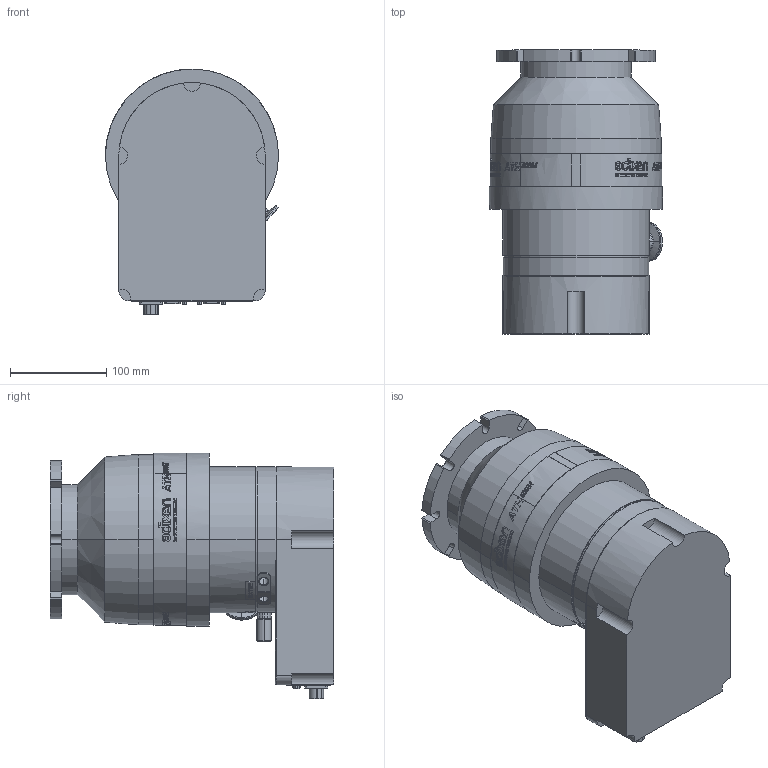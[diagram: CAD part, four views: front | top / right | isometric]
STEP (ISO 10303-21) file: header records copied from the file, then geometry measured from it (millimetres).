
FILE_DESCRIPTION((''),'2;1');
FILE_NAME('ENV-ATH500M-V2362100','2020-11-24T',('rcriado'),(''),'PRO/ENGINEER BY PARAMETRIC TECHNOLOGY CORPORATION, 2015280','PRO/ENGINEER BY PARAMETRIC TECHNOLOGY CORPORATION, 2015280','');
FILE_SCHEMA(('CONFIG_CONTROL_DESIGN'));
Products named in the file (1): ENV-ATH500M-V2362100
Bounding box: 180 x 295.09 x 255.75 mm (x, y, z)
Volume: 6612904.3 mm3; surface area: 371668.8 mm2
Topology: 6 solids, 6 shells, 3907 faces, 10792 edges, 7178 vertices
Faces by surface type: plane 2100, bspline 1254, cylinder 312, extrusion 205, cone 29, torus 7
Entity records: 150782 total; most frequent: CARTESIAN_POINT 58703, ORIENTED_EDGE 21584, DIRECTION 14441, EDGE_CURVE 10792, VECTOR 7213, VERTEX_POINT 7178, LINE 7008, EDGE_LOOP 4196
